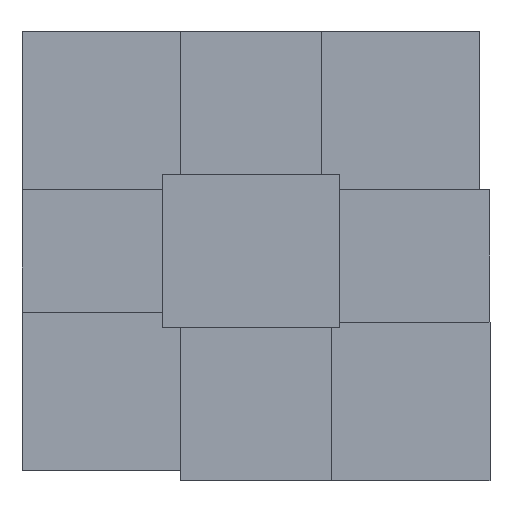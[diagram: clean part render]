
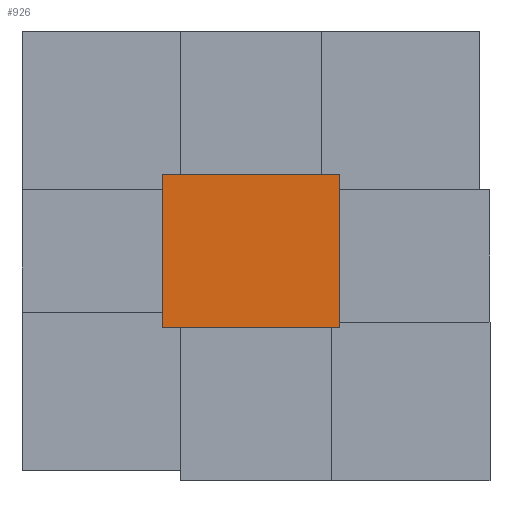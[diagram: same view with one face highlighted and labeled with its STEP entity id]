
A CAD part, left-side view. The second image highlights one B-rep face of the part: STEP entity #926.
In plain terms, the highlighted planar face has unit normal (-1, 0, 0).
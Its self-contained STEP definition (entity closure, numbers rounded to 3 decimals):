
#808=CARTESIAN_POINT('Line Origine',(0.,0.,48.5)) ;
#812=CARTESIAN_POINT('Vertex',(0.,0.,0.)) ;
#814=CARTESIAN_POINT('Vertex',(0.,0.,97.)) ;
#883=CARTESIAN_POINT('Vertex',(0.,112.,0.)) ;
#886=CARTESIAN_POINT('Line Origine',(0.,112.,48.5)) ;
#890=CARTESIAN_POINT('Vertex',(0.,112.,97.)) ;
#905=CARTESIAN_POINT('Axis2P3D Location',(0.,112.,0.)) ;
#910=CARTESIAN_POINT('Line Origine',(0.,56.,0.)) ;
#915=CARTESIAN_POINT('Line Origine',(0.,56.,97.)) ;
#809=DIRECTION('Vector Direction',(0.,0.,1.)) ;
#887=DIRECTION('Vector Direction',(0.,0.,1.)) ;
#906=DIRECTION('Axis2P3D Direction',(-1.,0.,0.)) ;
#907=DIRECTION('Axis2P3D XDirection',(0.,-1.,0.)) ;
#911=DIRECTION('Vector Direction',(0.,-1.,0.)) ;
#916=DIRECTION('Vector Direction',(0.,-1.,0.)) ;
#908=AXIS2_PLACEMENT_3D('Plane Axis2P3D',#905,#906,#907) ;
#921=ORIENTED_EDGE('',*,*,#892,.F.) ;
#922=ORIENTED_EDGE('',*,*,#914,.T.) ;
#923=ORIENTED_EDGE('',*,*,#816,.T.) ;
#924=ORIENTED_EDGE('',*,*,#919,.F.) ;
#810=VECTOR('Line Direction',#809,1.) ;
#888=VECTOR('Line Direction',#887,1.) ;
#912=VECTOR('Line Direction',#911,1.) ;
#917=VECTOR('Line Direction',#916,1.) ;
#926=ADVANCED_FACE('Body.2-molde-superior',(#925),#909,.T.) ;
#816=EDGE_CURVE('',#813,#815,#811,.T.) ;
#892=EDGE_CURVE('',#884,#891,#889,.T.) ;
#914=EDGE_CURVE('',#884,#813,#913,.T.) ;
#919=EDGE_CURVE('',#891,#815,#918,.T.) ;
#920=EDGE_LOOP('',(#921,#922,#923,#924)) ;
#925=FACE_OUTER_BOUND('',#920,.T.) ;
#811=LINE('Line',#808,#810) ;
#889=LINE('Line',#886,#888) ;
#913=LINE('Line',#910,#912) ;
#918=LINE('Line',#915,#917) ;
#909=PLANE('',#908) ;
#813=VERTEX_POINT('',#812) ;
#815=VERTEX_POINT('',#814) ;
#884=VERTEX_POINT('',#883) ;
#891=VERTEX_POINT('',#890) ;
